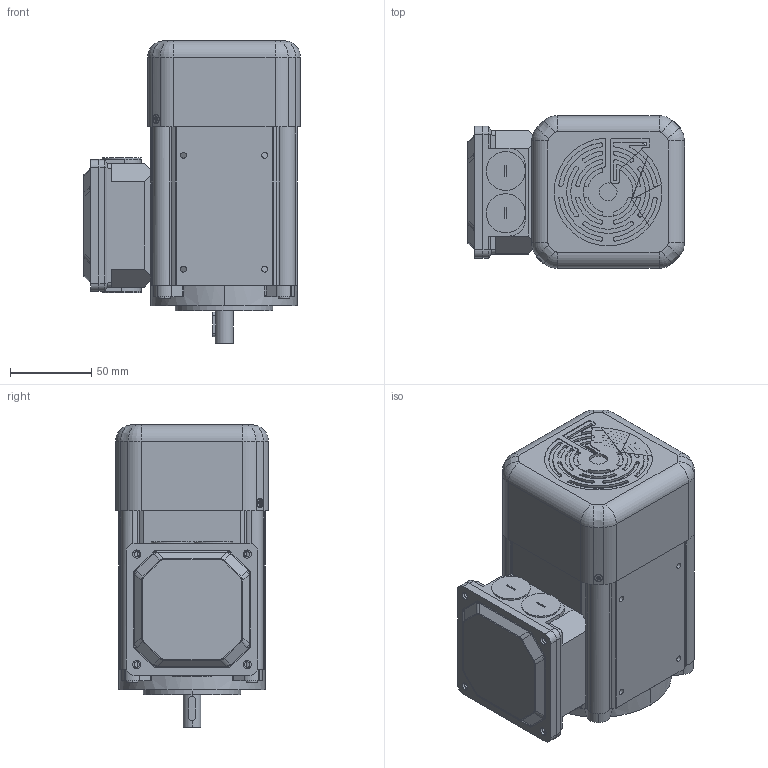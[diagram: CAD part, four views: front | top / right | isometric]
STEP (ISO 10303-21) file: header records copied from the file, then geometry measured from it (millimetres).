
FILE_DESCRIPTION (( 'STEP AP214' ), '1' );
FILE_NAME ('Motor IGLC80-60 IEC63.STEP', '2022-11-29T05:57:37', ( '' ), ( '' ), 'SwSTEP 2.0', 'SolidWorks 2020', '' );
FILE_SCHEMA (( 'AUTOMOTIVE_DESIGN' ));
Length unit declared in the file: millimetre
Products named in the file (1): Motor IGLC80-60 IEC63
Bounding box: 133.5 x 94 x 186 mm (x, y, z)
Volume: 1284620.9 mm3; surface area: 303716.5 mm2
Topology: 17 solids, 18 shells, 1427 faces, 3677 edges, 2320 vertices
Faces by surface type: cylinder 666, plane 565, bspline 93, cone 81, torus 22
Entity records: 53676 total; most frequent: CARTESIAN_POINT 13383, DIRECTION 7550, ORIENTED_EDGE 7270, EDGE_CURVE 3635, AXIS2_PLACEMENT_3D 2865, VERTEX_POINT 2320, LINE 1820, VECTOR 1820
